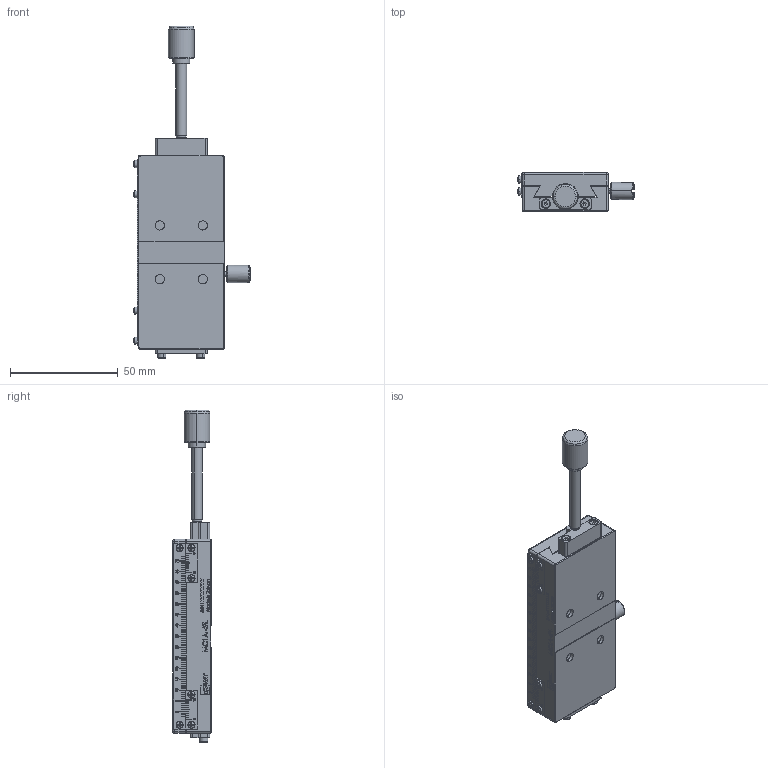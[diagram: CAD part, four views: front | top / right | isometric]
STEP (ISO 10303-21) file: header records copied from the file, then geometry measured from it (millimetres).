
FILE_DESCRIPTION (( 'STEP AP203' ), '1' );
FILE_NAME ('MC1A-49L.STEP', '2013-05-22T08:12:59', ( '123' ), ( '' ), 'SwSTEP 2.0', 'SolidWorks 2013', '' );
FILE_SCHEMA (( 'CONFIG_CONTROL_DESIGN' ));
Length unit declared in the file: millimetre
Products named in the file (3): MC1A-49L; Group1^MC1A-49L; Group2^MC1A-49L
Assembly tree (2 placements, depth 2):
  MC1A-49L
    Group1^MC1A-49L
    Group2^MC1A-49L
Bounding box: 54.07 x 18 x 154 mm (x, y, z)
Volume: 63023.2 mm3; surface area: 28487.5 mm2
Topology: 2 solids, 2 shells, 1917 faces, 5192 edges, 3374 vertices
Faces by surface type: plane 1227, bspline 346, cylinder 201, cone 103, torus 24, sphere 16
Entity records: 81462 total; most frequent: CARTESIAN_POINT 35298, ORIENTED_EDGE 10336, DIRECTION 8131, EDGE_CURVE 5168, VECTOR 3591, LINE 3591, VERTEX_POINT 3374, AXIS2_PLACEMENT_3D 2270
